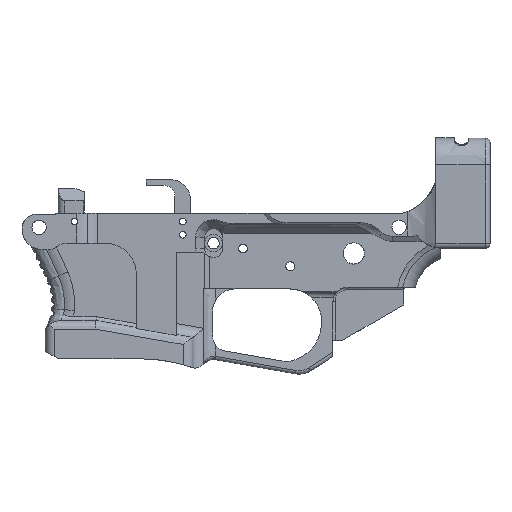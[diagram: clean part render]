
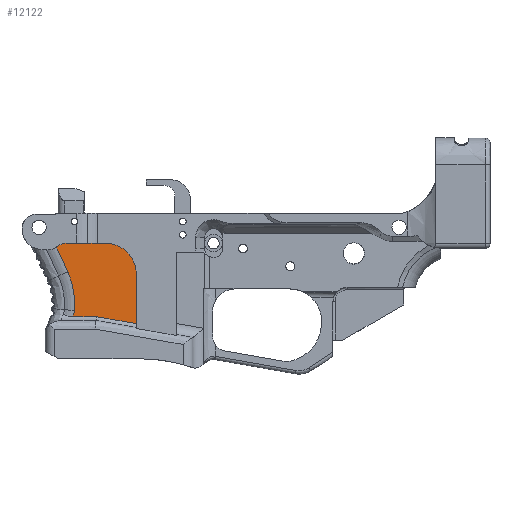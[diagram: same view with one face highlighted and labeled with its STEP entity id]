
A CAD part, left-side view. The second image highlights one B-rep face of the part: STEP entity #12122.
In plain terms, the highlighted planar face has unit normal (-1, 0, 0).
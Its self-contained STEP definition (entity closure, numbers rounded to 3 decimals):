
#373=PLANE('',#12879);
#635=CIRCLE('',#12880,14.);
#636=CIRCLE('',#12881,8.);
#637=CIRCLE('',#12882,8.);
#1097=FACE_OUTER_BOUND('',#1786,.T.);
#1786=EDGE_LOOP('',(#9265,#9266,#9267,#9268,#9269,#9270,#9271,#9272,#9273,
#9274,#9275));
#2659=B_SPLINE_CURVE_WITH_KNOTS('',3,(#25506,#25507,#25508,#25509,#25510),
 .UNSPECIFIED.,.F.,.F.,(4,1,4),(1.332,1.385,1.621),
 .UNSPECIFIED.);
#2660=B_SPLINE_CURVE_WITH_KNOTS('',3,(#25529,#25530,#25531,#25532),
 .UNSPECIFIED.,.F.,.F.,(4,4),(0.,1.787),
 .UNSPECIFIED.);
#2671=B_SPLINE_CURVE_WITH_KNOTS('',3,(#25760,#25761,#25762,#25763),
 .UNSPECIFIED.,.F.,.F.,(4,4),(-1.226,0.),
 .UNSPECIFIED.);
#3442=LINE('',#25416,#4179);
#3474=LINE('',#26285,#4211);
#3475=LINE('',#26292,#4212);
#3476=LINE('',#26296,#4213);
#3477=LINE('',#26300,#4214);
#4179=VECTOR('',#14350,10.);
#4211=VECTOR('',#14454,10.);
#4212=VECTOR('',#14457,10.);
#4213=VECTOR('',#14460,10.);
#4214=VECTOR('',#14463,10.);
#5194=VERTEX_POINT('',#25413);
#5195=VERTEX_POINT('',#25415);
#5197=VERTEX_POINT('',#25505);
#5198=VERTEX_POINT('',#25528);
#5214=VERTEX_POINT('',#25759);
#5265=VERTEX_POINT('',#26282);
#5267=VERTEX_POINT('',#26291);
#5268=VERTEX_POINT('',#26293);
#5269=VERTEX_POINT('',#26295);
#5270=VERTEX_POINT('',#26297);
#5271=VERTEX_POINT('',#26299);
#6681=EDGE_CURVE('',#5194,#5195,#3442,.F.);
#6684=EDGE_CURVE('',#5195,#5197,#2659,.T.);
#6686=EDGE_CURVE('',#5197,#5198,#2660,.T.);
#6707=EDGE_CURVE('',#5198,#5214,#2671,.F.);
#6779=EDGE_CURVE('',#5265,#5194,#3474,.F.);
#6781=EDGE_CURVE('',#5267,#5265,#3475,.T.);
#6782=EDGE_CURVE('',#5267,#5268,#635,.T.);
#6783=EDGE_CURVE('',#5269,#5268,#3476,.T.);
#6784=EDGE_CURVE('',#5269,#5270,#636,.T.);
#6785=EDGE_CURVE('',#5270,#5271,#3477,.T.);
#6786=EDGE_CURVE('',#5214,#5271,#637,.F.);
#9265=ORIENTED_EDGE('',*,*,#6779,.F.);
#9266=ORIENTED_EDGE('',*,*,#6781,.F.);
#9267=ORIENTED_EDGE('',*,*,#6782,.T.);
#9268=ORIENTED_EDGE('',*,*,#6783,.F.);
#9269=ORIENTED_EDGE('',*,*,#6784,.T.);
#9270=ORIENTED_EDGE('',*,*,#6785,.T.);
#9271=ORIENTED_EDGE('',*,*,#6786,.F.);
#9272=ORIENTED_EDGE('',*,*,#6707,.F.);
#9273=ORIENTED_EDGE('',*,*,#6686,.F.);
#9274=ORIENTED_EDGE('',*,*,#6684,.F.);
#9275=ORIENTED_EDGE('',*,*,#6681,.F.);
#12122=ADVANCED_FACE('',(#1097),#373,.F.);
#12879=AXIS2_PLACEMENT_3D('',#26290,#14455,#14456);
#12880=AXIS2_PLACEMENT_3D('',#26294,#14458,#14459);
#12881=AXIS2_PLACEMENT_3D('',#26298,#14461,#14462);
#12882=AXIS2_PLACEMENT_3D('',#26301,#14464,#14465);
#14350=DIRECTION('',(0.,-1.,0.));
#14454=DIRECTION('',(0.,-0.985,-0.172));
#14455=DIRECTION('center_axis',(1.,0.,
0.));
#14456=DIRECTION('ref_axis',(0.,1.,0.));
#14457=DIRECTION('',(0.,0.,-1.));
#14458=DIRECTION('center_axis',(-1.,0.,
0.));
#14459=DIRECTION('ref_axis',(0.,-0.707,0.707));
#14460=DIRECTION('',(0.,-1.,0.));
#14461=DIRECTION('center_axis',(-1.,0.,
0.));
#14462=DIRECTION('ref_axis',(0.,0.293,0.956));
#14463=DIRECTION('',(0.,0.828,-0.56));
#14464=DIRECTION('center_axis',(1.,0.,
0.));
#14465=DIRECTION('ref_axis',(0.,0.,
-1.));
#25413=CARTESIAN_POINT('',(6.831,47.521,-25.09));
#25415=CARTESIAN_POINT('',(6.826,58.234,-25.09));
#25416=CARTESIAN_POINT('',(6.843,20.422,-25.09));
#25505=CARTESIAN_POINT('',(6.827,57.383,-22.327));
#25506=CARTESIAN_POINT('Ctrl Pts',(6.826,58.234,-25.09));
#25507=CARTESIAN_POINT('Ctrl Pts',(6.826,58.146,-24.937));
#25508=CARTESIAN_POINT('Ctrl Pts',(6.826,57.699,-24.075));
#25509=CARTESIAN_POINT('Ctrl Pts',(6.827,57.451,-23.114));
#25510=CARTESIAN_POINT('Ctrl Pts',(6.827,57.383,-22.327));
#25528=CARTESIAN_POINT('',(6.826,60.4,-4.879));
#25529=CARTESIAN_POINT('Ctrl Pts',(6.827,57.383,-22.327));
#25530=CARTESIAN_POINT('Ctrl Pts',(6.827,56.869,-16.394));
#25531=CARTESIAN_POINT('Ctrl Pts',(6.827,57.924,-10.295));
#25532=CARTESIAN_POINT('Ctrl Pts',(6.826,60.4,-4.879));
#25759=CARTESIAN_POINT('',(6.824,65.497,6.273));
#25760=CARTESIAN_POINT('Ctrl Pts',(6.824,65.497,6.273));
#25761=CARTESIAN_POINT('Ctrl Pts',(6.825,63.798,2.556));
#25762=CARTESIAN_POINT('Ctrl Pts',(6.826,62.099,-1.161));
#25763=CARTESIAN_POINT('Ctrl Pts',(6.826,60.4,-4.879));
#26282=CARTESIAN_POINT('',(6.839,29.563,-28.234));
#26285=CARTESIAN_POINT('',(6.851,0.047,-33.402));
#26290=CARTESIAN_POINT('Origin',(6.843,23.883,21.434));
#26291=CARTESIAN_POINT('',(6.84,29.563,-6.005));
#26292=CARTESIAN_POINT('',(6.84,29.563,-6.975));
#26293=CARTESIAN_POINT('',(6.834,43.563,7.995));
#26294=CARTESIAN_POINT('Origin',(6.833,43.563,-6.005));
#26295=CARTESIAN_POINT('',(6.827,60.496,7.995));
#26296=CARTESIAN_POINT('',(6.829,54.752,7.995));
#26297=CARTESIAN_POINT('',(6.825,64.98,6.621));
#26298=CARTESIAN_POINT('Origin',(6.826,60.496,-0.005));
#26299=CARTESIAN_POINT('',(6.824,65.35,6.37));
#26300=CARTESIAN_POINT('',(6.832,48.649,17.674));
#26301=CARTESIAN_POINT('Origin',(6.823,69.834,12.995));
